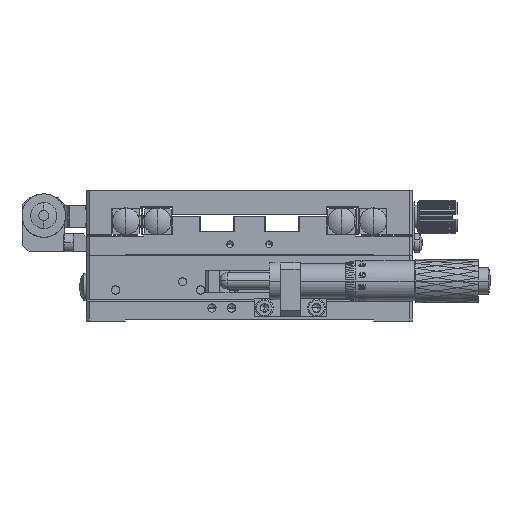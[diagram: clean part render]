
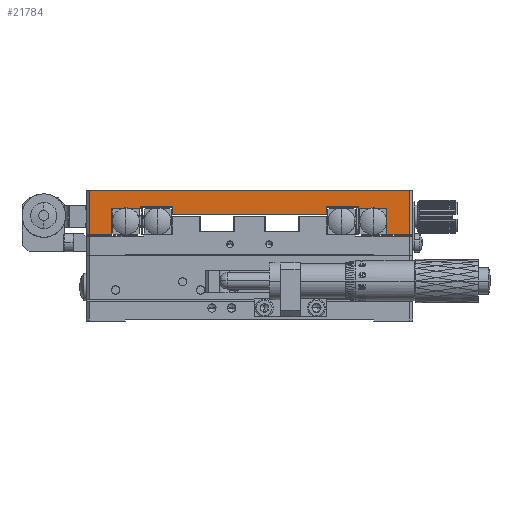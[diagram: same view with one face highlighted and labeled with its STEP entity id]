
A CAD part, top view. The second image highlights one B-rep face of the part: STEP entity #21784.
In plain terms, the highlighted planar face has unit normal (0, 0, 1).
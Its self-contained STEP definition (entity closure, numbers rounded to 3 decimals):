
#202 = CARTESIAN_POINT ( 'NONE',  ( 7.8, 34.5, 50. ) ) ;
#1666 = CARTESIAN_POINT ( 'NONE',  ( 0., 26.5, 50. ) ) ;
#3246 = CARTESIAN_POINT ( 'NONE',  ( 99., 40., 50. ) ) ;
#6853 = ORIENTED_EDGE ( 'NONE', *, *, #203530, .F. ) ;
#7468 = CARTESIAN_POINT ( 'NONE',  ( 83.5, 35., 50. ) ) ;
#8583 = EDGE_CURVE ( 'NONE', #207607, #57654, #168222, .T. ) ;
#9622 = CARTESIAN_POINT ( 'NONE',  ( 1., 26.5, 50. ) ) ;
#14841 = ORIENTED_EDGE ( 'NONE', *, *, #205619, .T. ) ;
#15936 = CARTESIAN_POINT ( 'NONE',  ( 16.5, 35., 50. ) ) ;
#16637 = EDGE_CURVE ( 'NONE', #159133, #90061, #94412, .T. ) ;
#18975 = EDGE_CURVE ( 'NONE', #90061, #105946, #164544, .T. ) ;
#19713 = EDGE_CURVE ( 'NONE', #47191, #22443, #28289, .T. ) ;
#21408 = DIRECTION ( 'NONE',  ( 0., 1., 0. ) ) ;
#21784 = ADVANCED_FACE ( 'NONE', ( #70779 ), #90649, .T. ) ;
#22443 = VERTEX_POINT ( 'NONE', #199672 ) ;
#25018 = DIRECTION ( 'NONE',  ( 1., 0., 0. ) ) ;
#25076 = CARTESIAN_POINT ( 'NONE',  ( 26.5, 32.7, 50. ) ) ;
#28289 = LINE ( 'NONE', #151352, #93164 ) ;
#29798 = EDGE_CURVE ( 'NONE', #219134, #161846, #168934, .T. ) ;
#31473 = ORIENTED_EDGE ( 'NONE', *, *, #71258, .T. ) ;
#35749 = VECTOR ( 'NONE', #118082, 1000. ) ;
#36653 = CARTESIAN_POINT ( 'NONE',  ( 26.5, 32.7, 50. ) ) ;
#36729 = ORIENTED_EDGE ( 'NONE', *, *, #19713, .T. ) ;
#38208 = CARTESIAN_POINT ( 'NONE',  ( 0., 40., 50. ) ) ;
#40853 = VECTOR ( 'NONE', #62479, 1000. ) ;
#42568 = LINE ( 'NONE', #7468, #191432 ) ;
#45486 = LINE ( 'NONE', #174333, #134776 ) ;
#47009 = CARTESIAN_POINT ( 'NONE',  ( 83.5, 34.5, 50. ) ) ;
#47191 = VERTEX_POINT ( 'NONE', #87315 ) ;
#47937 = ORIENTED_EDGE ( 'NONE', *, *, #8583, .F. ) ;
#49585 = ORIENTED_EDGE ( 'NONE', *, *, #51986, .F. ) ;
#51149 = VERTEX_POINT ( 'NONE', #9622 ) ;
#51532 = CARTESIAN_POINT ( 'NONE',  ( 1., 40., 50. ) ) ;
#51986 = EDGE_CURVE ( 'NONE', #56320, #219134, #112159, .T. ) ;
#52220 = ORIENTED_EDGE ( 'NONE', *, *, #199032, .T. ) ;
#54760 = VECTOR ( 'NONE', #165124, 1000. ) ;
#56320 = VERTEX_POINT ( 'NONE', #104331 ) ;
#56507 = CARTESIAN_POINT ( 'NONE',  ( 99., 26.5, 50. ) ) ;
#57654 = VERTEX_POINT ( 'NONE', #202 ) ;
#59503 = EDGE_CURVE ( 'NONE', #177004, #159133, #42568, .T. ) ;
#62479 = DIRECTION ( 'NONE',  ( 1., 0., 0. ) ) ;
#63478 = VECTOR ( 'NONE', #183455, 1000. ) ;
#64228 = LINE ( 'NONE', #99369, #35749 ) ;
#70779 = FACE_OUTER_BOUND ( 'NONE', #102329, .T. ) ;
#71258 = EDGE_CURVE ( 'NONE', #105946, #47191, #64228, .T. ) ;
#72146 = VERTEX_POINT ( 'NONE', #3246 ) ;
#73007 = DIRECTION ( 'NONE',  ( 1., 0., 0. ) ) ;
#76491 = DIRECTION ( 'NONE',  ( 0., 0., 1. ) ) ;
#77490 = DIRECTION ( 'NONE',  ( 1., 0., 0. ) ) ;
#79182 = VECTOR ( 'NONE', #73007, 1000. ) ;
#83059 = VERTEX_POINT ( 'NONE', #51532 ) ;
#87315 = CARTESIAN_POINT ( 'NONE',  ( 73.5, 35., 50. ) ) ;
#89611 = ORIENTED_EDGE ( 'NONE', *, *, #183685, .T. ) ;
#90061 = VERTEX_POINT ( 'NONE', #36653 ) ;
#90586 = EDGE_CURVE ( 'NONE', #83059, #72146, #127247, .T. ) ;
#90649 = PLANE ( 'NONE',  #121450 ) ;
#93164 = VECTOR ( 'NONE', #77490, 1000. ) ;
#94412 = LINE ( 'NONE', #170555, #63478 ) ;
#94719 = VECTOR ( 'NONE', #126098, 1000. ) ;
#94782 = LINE ( 'NONE', #200268, #54760 ) ;
#95100 = VECTOR ( 'NONE', #177593, 1000. ) ;
#95542 = DIRECTION ( 'NONE',  ( -1., 0., 0. ) ) ;
#97521 = ORIENTED_EDGE ( 'NONE', *, *, #186670, .T. ) ;
#99369 = CARTESIAN_POINT ( 'NONE',  ( 73.5, 35., 50. ) ) ;
#99805 = DIRECTION ( 'NONE',  ( 0., -1., 0. ) ) ;
#102329 = EDGE_LOOP ( 'NONE', ( #6853, #47937, #52220, #196200, #121378, #223527, #31473, #36729, #163518, #211983, #49585, #207480, #97521, #172224, #14841, #89611 ) ) ;
#102493 = CARTESIAN_POINT ( 'NONE',  ( 16.5, 34.5, 50. ) ) ;
#104331 = CARTESIAN_POINT ( 'NONE',  ( 92., 26.5, 50. ) ) ;
#105946 = VERTEX_POINT ( 'NONE', #186371 ) ;
#107768 = VECTOR ( 'NONE', #187134, 1000. ) ;
#108408 = EDGE_CURVE ( 'NONE', #56320, #143382, #127267, .T. ) ;
#108788 = VECTOR ( 'NONE', #95542, 1000. ) ;
#109808 = CARTESIAN_POINT ( 'NONE',  ( 16.5, 35., 50. ) ) ;
#110623 = VECTOR ( 'NONE', #114976, 1000. ) ;
#112159 = LINE ( 'NONE', #183657, #107768 ) ;
#114976 = DIRECTION ( 'NONE',  ( -1., 0., 0. ) ) ;
#116107 = CARTESIAN_POINT ( 'NONE',  ( 7.8, 26.5, 50. ) ) ;
#118070 = DIRECTION ( 'NONE',  ( 0., -1., 0. ) ) ;
#118082 = DIRECTION ( 'NONE',  ( 0., 1., 0. ) ) ;
#121378 = ORIENTED_EDGE ( 'NONE', *, *, #16637, .T. ) ;
#121450 = AXIS2_PLACEMENT_3D ( 'NONE', #201936, #76491, #25018 ) ;
#125833 = VECTOR ( 'NONE', #99805, 1000. ) ;
#126098 = DIRECTION ( 'NONE',  ( 1., 0., 0. ) ) ;
#127247 = LINE ( 'NONE', #38208, #94719 ) ;
#127267 = LINE ( 'NONE', #146047, #134823 ) ;
#134776 = VECTOR ( 'NONE', #118070, 1000. ) ;
#134823 = VECTOR ( 'NONE', #219832, 1000. ) ;
#143382 = VERTEX_POINT ( 'NONE', #216813 ) ;
#146047 = CARTESIAN_POINT ( 'NONE',  ( 0., 26.5, 50. ) ) ;
#151352 = CARTESIAN_POINT ( 'NONE',  ( 83.5, 35., 50. ) ) ;
#151779 = CARTESIAN_POINT ( 'NONE',  ( 16.5, 34.5, 50. ) ) ;
#153872 = DIRECTION ( 'NONE',  ( 1., 0., 0. ) ) ;
#154563 = VECTOR ( 'NONE', #21408, 1000. ) ;
#159133 = VERTEX_POINT ( 'NONE', #210883 ) ;
#161846 = VERTEX_POINT ( 'NONE', #227663 ) ;
#162142 = LINE ( 'NONE', #1666, #79182 ) ;
#162918 = CARTESIAN_POINT ( 'NONE',  ( 92., 34.5, 50. ) ) ;
#163518 = ORIENTED_EDGE ( 'NONE', *, *, #180801, .T. ) ;
#164544 = LINE ( 'NONE', #25076, #40853 ) ;
#165124 = DIRECTION ( 'NONE',  ( 0., -1., 0. ) ) ;
#166704 = LINE ( 'NONE', #219442, #125833 ) ;
#168222 = LINE ( 'NONE', #151779, #108788 ) ;
#168934 = LINE ( 'NONE', #47009, #110623 ) ;
#170555 = CARTESIAN_POINT ( 'NONE',  ( 26.5, 35., 50. ) ) ;
#172224 = ORIENTED_EDGE ( 'NONE', *, *, #90586, .F. ) ;
#174333 = CARTESIAN_POINT ( 'NONE',  ( 83.5, 35., 50. ) ) ;
#175279 = LINE ( 'NONE', #15936, #95100 ) ;
#177004 = VERTEX_POINT ( 'NONE', #109808 ) ;
#177593 = DIRECTION ( 'NONE',  ( 0., 1., 0. ) ) ;
#180801 = EDGE_CURVE ( 'NONE', #22443, #161846, #45486, .T. ) ;
#183455 = DIRECTION ( 'NONE',  ( 0., -1., 0. ) ) ;
#183657 = CARTESIAN_POINT ( 'NONE',  ( 92., 26.5, 50. ) ) ;
#183685 = EDGE_CURVE ( 'NONE', #51149, #222006, #162142, .T. ) ;
#186371 = CARTESIAN_POINT ( 'NONE',  ( 73.5, 32.7, 50. ) ) ;
#186670 = EDGE_CURVE ( 'NONE', #143382, #72146, #217079, .T. ) ;
#187134 = DIRECTION ( 'NONE',  ( 0., 1., 0. ) ) ;
#191432 = VECTOR ( 'NONE', #153872, 1000. ) ;
#196200 = ORIENTED_EDGE ( 'NONE', *, *, #59503, .T. ) ;
#199032 = EDGE_CURVE ( 'NONE', #207607, #177004, #175279, .T. ) ;
#199672 = CARTESIAN_POINT ( 'NONE',  ( 83.5, 35., 50. ) ) ;
#200268 = CARTESIAN_POINT ( 'NONE',  ( 7.8, 26.5, 50. ) ) ;
#201936 = CARTESIAN_POINT ( 'NONE',  ( 0., 26.5, 50. ) ) ;
#203530 = EDGE_CURVE ( 'NONE', #57654, #222006, #94782, .T. ) ;
#205619 = EDGE_CURVE ( 'NONE', #83059, #51149, #166704, .T. ) ;
#207480 = ORIENTED_EDGE ( 'NONE', *, *, #108408, .T. ) ;
#207607 = VERTEX_POINT ( 'NONE', #102493 ) ;
#210883 = CARTESIAN_POINT ( 'NONE',  ( 26.5, 35., 50. ) ) ;
#211983 = ORIENTED_EDGE ( 'NONE', *, *, #29798, .F. ) ;
#216813 = CARTESIAN_POINT ( 'NONE',  ( 99., 26.5, 50. ) ) ;
#217079 = LINE ( 'NONE', #56507, #154563 ) ;
#219134 = VERTEX_POINT ( 'NONE', #162918 ) ;
#219442 = CARTESIAN_POINT ( 'NONE',  ( 1., 26.5, 50. ) ) ;
#219832 = DIRECTION ( 'NONE',  ( 1., 0., 0. ) ) ;
#222006 = VERTEX_POINT ( 'NONE', #116107 ) ;
#223527 = ORIENTED_EDGE ( 'NONE', *, *, #18975, .T. ) ;
#227663 = CARTESIAN_POINT ( 'NONE',  ( 83.5, 34.5, 50. ) ) ;
